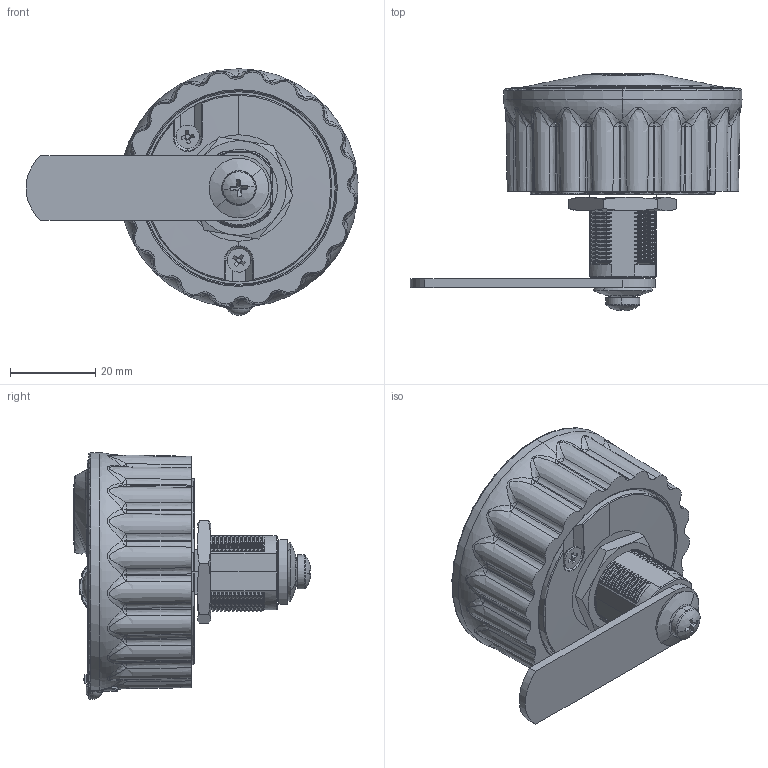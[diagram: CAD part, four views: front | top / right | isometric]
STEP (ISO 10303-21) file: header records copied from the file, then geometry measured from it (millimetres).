
FILE_DESCRIPTION (( 'STEP AP214' ), '1' );
FILE_NAME ('2800 CUSTOMER BLACK.STEP', '2017-04-10T07:33:15', ( '' ), ( '' ), 'SwSTEP 2.0', 'SolidWorks 2017', '' );
FILE_SCHEMA (( 'AUTOMOTIVE_DESIGN' ));
Length unit declared in the file: millimetre
Products named in the file (1): 2800 CUSTOMER BLACK
Bounding box: 77.97 x 55.82 x 57.89 mm (x, y, z)
Surface area: 18373.4 mm2 (no closed solid volume)
Topology: 0 solids, 18 shells, 998 faces, 3376 edges, 2289 vertices
Faces by surface type: bspline 401, plane 268, cylinder 124, cone 82, torus 81, sphere 42
Entity records: 312651 total; most frequent: CARTESIAN_POINT 277573, ORIENTED_EDGE 5609, DIRECTION 3690, EDGE_CURVE 3352, VERTEX_POINT 2289, AXIS2_PLACEMENT_3D 1319, B_SPLINE_CURVE_WITH_KNOTS 1196, EDGE_LOOP 1058
